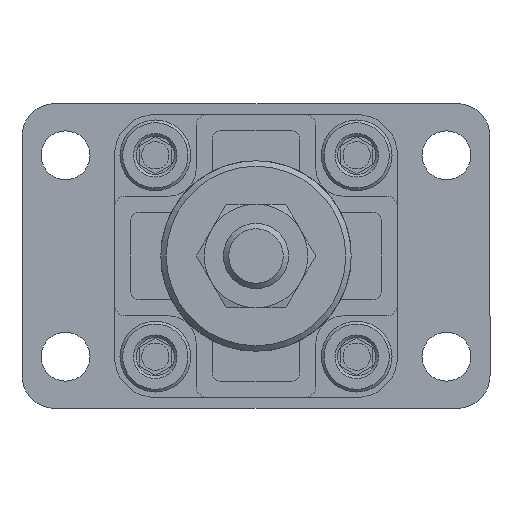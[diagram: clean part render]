
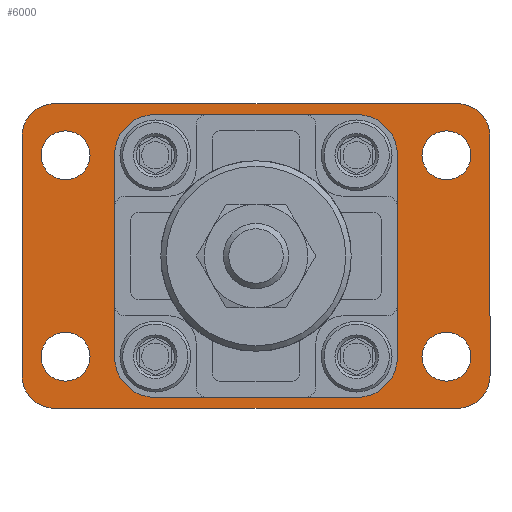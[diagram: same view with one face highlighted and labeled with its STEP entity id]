
A CAD part, front view. The second image highlights one B-rep face of the part: STEP entity #6000.
In plain terms, the highlighted planar face has unit normal (0, -1, 0) as drawn and (0, 1, 0) by its records, which use the part's own axes.
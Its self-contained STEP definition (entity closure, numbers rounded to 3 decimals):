
#406=LINE('',#9016,#730);
#410=LINE('',#9025,#734);
#414=LINE('',#9034,#738);
#416=LINE('',#9038,#740);
#730=VECTOR('',#7709,1000.);
#734=VECTOR('',#7715,1000.);
#738=VECTOR('',#7721,1000.);
#740=VECTOR('',#7725,1000.);
#1888=ORIENTED_EDGE('',*,*,#2567,.F.);
#1889=ORIENTED_EDGE('',*,*,#2568,.T.);
#1890=ORIENTED_EDGE('',*,*,#2569,.T.);
#1891=ORIENTED_EDGE('',*,*,#2570,.T.);
#1892=ORIENTED_EDGE('',*,*,#2571,.T.);
#1893=ORIENTED_EDGE('',*,*,#2572,.F.);
#1894=ORIENTED_EDGE('',*,*,#2573,.F.);
#1895=ORIENTED_EDGE('',*,*,#2574,.F.);
#1896=ORIENTED_EDGE('',*,*,#2575,.F.);
#1897=ORIENTED_EDGE('',*,*,#2540,.F.);
#1898=ORIENTED_EDGE('',*,*,#2576,.T.);
#1899=ORIENTED_EDGE('',*,*,#2550,.F.);
#1900=ORIENTED_EDGE('',*,*,#2577,.T.);
#1901=ORIENTED_EDGE('',*,*,#2548,.F.);
#1902=ORIENTED_EDGE('',*,*,#2578,.T.);
#1903=ORIENTED_EDGE('',*,*,#2544,.F.);
#1904=ORIENTED_EDGE('',*,*,#2579,.T.);
#2540=EDGE_CURVE('',#2985,#2986,#406,.T.);
#2544=EDGE_CURVE('',#2989,#2990,#410,.T.);
#2548=EDGE_CURVE('',#2993,#2994,#414,.T.);
#2550=EDGE_CURVE('',#2995,#2996,#416,.T.);
#2567=EDGE_CURVE('',#3008,#3008,#3249,.F.);
#2568=EDGE_CURVE('',#3009,#3009,#3250,.T.);
#2569=EDGE_CURVE('',#3010,#3010,#3251,.T.);
#2570=EDGE_CURVE('',#3011,#3011,#3252,.T.);
#2571=EDGE_CURVE('',#3012,#3012,#3253,.T.);
#2572=EDGE_CURVE('',#3013,#3013,#3254,.F.);
#2573=EDGE_CURVE('',#3014,#3014,#3255,.F.);
#2574=EDGE_CURVE('',#3015,#3015,#3256,.F.);
#2575=EDGE_CURVE('',#3016,#3016,#3257,.F.);
#2576=EDGE_CURVE('',#2985,#2996,#3258,.F.);
#2577=EDGE_CURVE('',#2995,#2994,#3259,.F.);
#2578=EDGE_CURVE('',#2993,#2990,#3260,.F.);
#2579=EDGE_CURVE('',#2989,#2986,#3261,.F.);
#2985=VERTEX_POINT('',#9015);
#2986=VERTEX_POINT('',#9017);
#2989=VERTEX_POINT('',#9024);
#2990=VERTEX_POINT('',#9026);
#2993=VERTEX_POINT('',#9033);
#2994=VERTEX_POINT('',#9035);
#2995=VERTEX_POINT('',#9039);
#2996=VERTEX_POINT('',#9040);
#3008=VERTEX_POINT('',#9071);
#3009=VERTEX_POINT('',#9073);
#3010=VERTEX_POINT('',#9075);
#3011=VERTEX_POINT('',#9077);
#3012=VERTEX_POINT('',#9079);
#3013=VERTEX_POINT('',#9081);
#3014=VERTEX_POINT('',#9083);
#3015=VERTEX_POINT('',#9085);
#3016=VERTEX_POINT('',#9087);
#3249=CIRCLE('',#6502,18.);
#3250=CIRCLE('',#6503,3.5);
#3251=CIRCLE('',#6504,3.5);
#3252=CIRCLE('',#6505,3.5);
#3253=CIRCLE('',#6506,3.5);
#3254=CIRCLE('',#6507,4.5);
#3255=CIRCLE('',#6508,4.5);
#3256=CIRCLE('',#6509,4.5);
#3257=CIRCLE('',#6510,4.5);
#3258=CIRCLE('',#6511,6.);
#3259=CIRCLE('',#6512,6.);
#3260=CIRCLE('',#6513,6.);
#3261=CIRCLE('',#6514,6.);
#3600=EDGE_LOOP('',(#1888));
#3601=EDGE_LOOP('',(#1889));
#3602=EDGE_LOOP('',(#1890));
#3603=EDGE_LOOP('',(#1891));
#3604=EDGE_LOOP('',(#1892));
#3605=EDGE_LOOP('',(#1893));
#3606=EDGE_LOOP('',(#1894));
#3607=EDGE_LOOP('',(#1895));
#3608=EDGE_LOOP('',(#1896));
#3609=EDGE_LOOP('',(#1897,#1898,#1899,#1900,#1901,#1902,#1903,#1904));
#3990=FACE_BOUND('',#3600,.T.);
#3991=FACE_BOUND('',#3601,.T.);
#3992=FACE_BOUND('',#3602,.T.);
#3993=FACE_BOUND('',#3603,.T.);
#3994=FACE_BOUND('',#3604,.T.);
#3995=FACE_BOUND('',#3605,.T.);
#3996=FACE_BOUND('',#3606,.T.);
#3997=FACE_BOUND('',#3607,.T.);
#3998=FACE_BOUND('',#3608,.T.);
#3999=FACE_BOUND('',#3609,.T.);
#4196=PLANE('',#6501);
#6000=ADVANCED_FACE('',(#3990,#3991,#3992,#3993,#3994,#3995,#3996,#3997,
#3998,#3999),#4196,.F.);
#6501=AXIS2_PLACEMENT_3D('',#9069,#7757,#7758);
#6502=AXIS2_PLACEMENT_3D('',#9070,#7759,#7760);
#6503=AXIS2_PLACEMENT_3D('',#9072,#7761,#7762);
#6504=AXIS2_PLACEMENT_3D('',#9074,#7763,#7764);
#6505=AXIS2_PLACEMENT_3D('',#9076,#7765,#7766);
#6506=AXIS2_PLACEMENT_3D('',#9078,#7767,#7768);
#6507=AXIS2_PLACEMENT_3D('',#9080,#7769,#7770);
#6508=AXIS2_PLACEMENT_3D('',#9082,#7771,#7772);
#6509=AXIS2_PLACEMENT_3D('',#9084,#7773,#7774);
#6510=AXIS2_PLACEMENT_3D('',#9086,#7775,#7776);
#6511=AXIS2_PLACEMENT_3D('',#9088,#7777,#7778);
#6512=AXIS2_PLACEMENT_3D('',#9089,#7779,#7780);
#6513=AXIS2_PLACEMENT_3D('',#9090,#7781,#7782);
#6514=AXIS2_PLACEMENT_3D('',#9091,#7783,#7784);
#7709=DIRECTION('',(0.,0.,-1.));
#7715=DIRECTION('',(1.,0.,0.));
#7721=DIRECTION('',(0.,0.,1.));
#7725=DIRECTION('',(-1.,0.,0.));
#7757=DIRECTION('',(0.,-1.,0.));
#7758=DIRECTION('',(0.,0.,-1.));
#7759=DIRECTION('',(0.,-1.,0.));
#7760=DIRECTION('',(0.,0.,-1.));
#7761=DIRECTION('',(0.,-1.,0.));
#7762=DIRECTION('',(0.,0.,-1.));
#7763=DIRECTION('',(0.,-1.,0.));
#7764=DIRECTION('',(0.,0.,-1.));
#7765=DIRECTION('',(0.,-1.,0.));
#7766=DIRECTION('',(0.,0.,-1.));
#7767=DIRECTION('',(0.,-1.,0.));
#7768=DIRECTION('',(0.,0.,-1.));
#7769=DIRECTION('',(0.,-1.,0.));
#7770=DIRECTION('',(0.,0.,-1.));
#7771=DIRECTION('',(0.,-1.,0.));
#7772=DIRECTION('',(0.,0.,-1.));
#7773=DIRECTION('',(0.,-1.,0.));
#7774=DIRECTION('',(0.,0.,-1.));
#7775=DIRECTION('',(0.,-1.,0.));
#7776=DIRECTION('',(0.,0.,-1.));
#7777=DIRECTION('',(0.,-1.,0.));
#7778=DIRECTION('',(0.,0.,-1.));
#7779=DIRECTION('',(0.,-1.,0.));
#7780=DIRECTION('',(0.,0.,-1.));
#7781=DIRECTION('',(0.,-1.,0.));
#7782=DIRECTION('',(0.,0.,-1.));
#7783=DIRECTION('',(0.,-1.,0.));
#7784=DIRECTION('',(0.,0.,-1.));
#9015=CARTESIAN_POINT('',(-43.,0.,22.));
#9016=CARTESIAN_POINT('',(-43.,0.,28.));
#9017=CARTESIAN_POINT('',(-43.,0.,-22.));
#9024=CARTESIAN_POINT('',(-37.,0.,-28.));
#9025=CARTESIAN_POINT('',(-43.,0.,-28.));
#9026=CARTESIAN_POINT('',(37.,0.,-28.));
#9033=CARTESIAN_POINT('',(43.,0.,-22.));
#9034=CARTESIAN_POINT('',(43.,0.,-28.));
#9035=CARTESIAN_POINT('',(43.,0.,22.));
#9038=CARTESIAN_POINT('',(43.,0.,28.));
#9039=CARTESIAN_POINT('',(37.,0.,28.));
#9040=CARTESIAN_POINT('',(-37.,0.,28.));
#9069=CARTESIAN_POINT('',(0.,0.,0.));
#9070=CARTESIAN_POINT('',(0.,0.,0.));
#9071=CARTESIAN_POINT('',(0.,0.,-18.));
#9072=CARTESIAN_POINT('',(-18.5,0.,-18.5));
#9073=CARTESIAN_POINT('',(-18.5,0.,-22.));
#9074=CARTESIAN_POINT('',(18.5,0.,-18.5));
#9075=CARTESIAN_POINT('',(18.5,0.,-22.));
#9076=CARTESIAN_POINT('',(18.5,0.,18.5));
#9077=CARTESIAN_POINT('',(18.5,0.,15.));
#9078=CARTESIAN_POINT('',(-18.5,0.,18.5));
#9079=CARTESIAN_POINT('',(-18.5,0.,15.));
#9080=CARTESIAN_POINT('',(35.,0.,-18.5));
#9081=CARTESIAN_POINT('',(35.,0.,-23.));
#9082=CARTESIAN_POINT('',(-35.,0.,-18.5));
#9083=CARTESIAN_POINT('',(-35.,0.,-23.));
#9084=CARTESIAN_POINT('',(-35.,0.,18.5));
#9085=CARTESIAN_POINT('',(-35.,0.,14.));
#9086=CARTESIAN_POINT('',(35.,0.,18.5));
#9087=CARTESIAN_POINT('',(35.,0.,14.));
#9088=CARTESIAN_POINT('',(-37.,0.,22.));
#9089=CARTESIAN_POINT('',(37.,0.,22.));
#9090=CARTESIAN_POINT('',(37.,0.,-22.));
#9091=CARTESIAN_POINT('',(-37.,0.,-22.));
